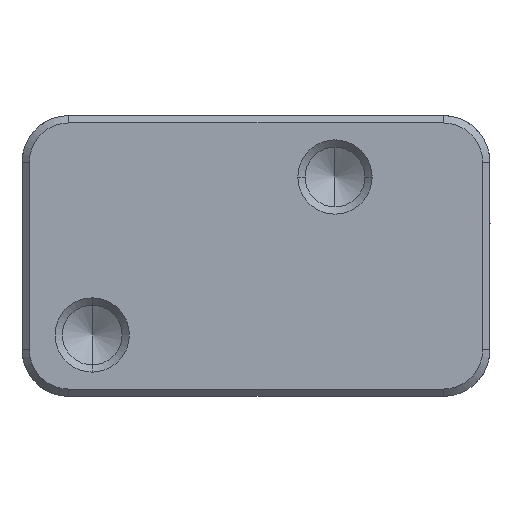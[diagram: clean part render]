
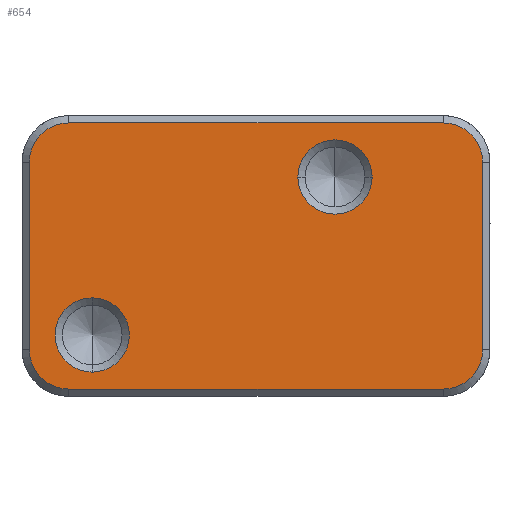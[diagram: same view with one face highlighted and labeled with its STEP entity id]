
A CAD part, front view. The second image highlights one B-rep face of the part: STEP entity #654.
In plain terms, the highlighted planar face has unit normal (0, -1, 0).
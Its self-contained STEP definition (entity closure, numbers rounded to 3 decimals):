
#260 = EDGE_CURVE ( 'NONE', #9826, #9153, #4109, .T. ) ;
#325 = DIRECTION ( 'NONE',  ( 0., -1., 0. ) ) ;
#391 = ORIENTED_EDGE ( 'NONE', *, *, #1894, .T. ) ;
#654 = ADVANCED_FACE ( 'NONE', ( #3525, #7525, #852 ), #11348, .T. ) ;
#692 = LINE ( 'NONE', #4142, #1147 ) ;
#729 = EDGE_LOOP ( 'NONE', ( #8935, #8506 ) ) ;
#852 = FACE_BOUND ( 'NONE', #10500, .T. ) ;
#922 = CARTESIAN_POINT ( 'NONE',  ( -32.001, 0.897, 15.99 ) ) ;
#1072 = CARTESIAN_POINT ( 'NONE',  ( -28.001, 0.897, -19.861 ) ) ;
#1147 = VECTOR ( 'NONE', #14089, 1000. ) ;
#1312 = CARTESIAN_POINT ( 'NONE',  ( -38.75, 0.897, -16.012 ) ) ;
#1326 = CARTESIAN_POINT ( 'NONE',  ( -40., 0.897, -24.012 ) ) ;
#1435 = DIRECTION ( 'NONE',  ( 0., 0., 1. ) ) ;
#1748 = CARTESIAN_POINT ( 'NONE',  ( -28.001, 0.897, -13.511 ) ) ;
#1894 = EDGE_CURVE ( 'NONE', #10480, #11214, #12745, .T. ) ;
#2233 = VECTOR ( 'NONE', #5553, 1000. ) ;
#2249 = EDGE_CURVE ( 'NONE', #10996, #7774, #11618, .T. ) ;
#2462 = ORIENTED_EDGE ( 'NONE', *, *, #3984, .F. ) ;
#2746 = AXIS2_PLACEMENT_3D ( 'NONE', #9037, #325, #3696 ) ;
#3008 = CARTESIAN_POINT ( 'NONE',  ( 38.75, 0.897, -16.012 ) ) ;
#3373 = VERTEX_POINT ( 'NONE', #1312 ) ;
#3424 = LINE ( 'NONE', #8920, #2233 ) ;
#3525 = FACE_BOUND ( 'NONE', #729, .T. ) ;
#3537 = CARTESIAN_POINT ( 'NONE',  ( -32.001, 0.897, 22.74 ) ) ;
#3696 = DIRECTION ( 'NONE',  ( 0., 0., 1. ) ) ;
#3984 = EDGE_CURVE ( 'NONE', #13510, #14486, #8814, .T. ) ;
#4109 = CIRCLE ( 'NONE', #9227, 6.35 ) ;
#4142 = CARTESIAN_POINT ( 'NONE',  ( -40., 0.897, 22.74 ) ) ;
#4145 = AXIS2_PLACEMENT_3D ( 'NONE', #4641, #4433, #5875 ) ;
#4211 = ORIENTED_EDGE ( 'NONE', *, *, #8044, .T. ) ;
#4322 = CARTESIAN_POINT ( 'NONE',  ( -38.75, 0.897, -24.012 ) ) ;
#4433 = DIRECTION ( 'NONE',  ( 0., 1., 0. ) ) ;
#4570 = AXIS2_PLACEMENT_3D ( 'NONE', #1326, #9713, #5325 ) ;
#4641 = CARTESIAN_POINT ( 'NONE',  ( 32.001, 0.897, -16.012 ) ) ;
#4802 = CARTESIAN_POINT ( 'NONE',  ( -28.001, 0.897, -13.511 ) ) ;
#5014 = VERTEX_POINT ( 'NONE', #14009 ) ;
#5281 = EDGE_CURVE ( 'NONE', #7695, #9177, #11615, .T. ) ;
#5325 = DIRECTION ( 'NONE',  ( 1., 0., 0. ) ) ;
#5326 = VECTOR ( 'NONE', #13251, 1000. ) ;
#5390 = EDGE_CURVE ( 'NONE', #11214, #3373, #11931, .T. ) ;
#5553 = DIRECTION ( 'NONE',  ( -1., 0., 0. ) ) ;
#5592 = ORIENTED_EDGE ( 'NONE', *, *, #13806, .T. ) ;
#5875 = DIRECTION ( 'NONE',  ( 0., 0., 1. ) ) ;
#5971 = VECTOR ( 'NONE', #1435, 1000. ) ;
#6099 = CARTESIAN_POINT ( 'NONE',  ( 13.501, 0.897, 13.489 ) ) ;
#6211 = DIRECTION ( 'NONE',  ( 0., 1., 0. ) ) ;
#6251 = DIRECTION ( 'NONE',  ( 1., 0., 0. ) ) ;
#6298 = DIRECTION ( 'NONE',  ( 0., 0., 1. ) ) ;
#6672 = CARTESIAN_POINT ( 'NONE',  ( -28.001, 0.897, -7.161 ) ) ;
#7008 = DIRECTION ( 'NONE',  ( 0., 1., 0. ) ) ;
#7154 = DIRECTION ( 'NONE',  ( 0., 0., -1. ) ) ;
#7261 = DIRECTION ( 'NONE',  ( 1., 0., 0. ) ) ;
#7525 = FACE_OUTER_BOUND ( 'NONE', #13372, .T. ) ;
#7695 = VERTEX_POINT ( 'NONE', #12225 ) ;
#7774 = VERTEX_POINT ( 'NONE', #11770 ) ;
#7851 = AXIS2_PLACEMENT_3D ( 'NONE', #922, #8749, #12852 ) ;
#7875 = AXIS2_PLACEMENT_3D ( 'NONE', #9439, #8490, #6298 ) ;
#7973 = EDGE_CURVE ( 'NONE', #14486, #5014, #3424, .T. ) ;
#8044 = EDGE_CURVE ( 'NONE', #13510, #10996, #9492, .T. ) ;
#8291 = AXIS2_PLACEMENT_3D ( 'NONE', #1748, #6211, #13821 ) ;
#8490 = DIRECTION ( 'NONE',  ( 0., 1., 0. ) ) ;
#8506 = ORIENTED_EDGE ( 'NONE', *, *, #13091, .T. ) ;
#8749 = DIRECTION ( 'NONE',  ( 0., -1., 0. ) ) ;
#8814 = CIRCLE ( 'NONE', #4145, 6.75 ) ;
#8842 = ORIENTED_EDGE ( 'NONE', *, *, #260, .T. ) ;
#8920 = CARTESIAN_POINT ( 'NONE',  ( -40., 0.897, -22.762 ) ) ;
#8935 = ORIENTED_EDGE ( 'NONE', *, *, #5281, .T. ) ;
#8980 = AXIS2_PLACEMENT_3D ( 'NONE', #6099, #10494, #6251 ) ;
#9037 = CARTESIAN_POINT ( 'NONE',  ( 32.001, 0.897, 15.99 ) ) ;
#9153 = VERTEX_POINT ( 'NONE', #1072 ) ;
#9177 = VERTEX_POINT ( 'NONE', #10071 ) ;
#9227 = AXIS2_PLACEMENT_3D ( 'NONE', #4802, #7008, #7154 ) ;
#9401 = CARTESIAN_POINT ( 'NONE',  ( -38.75, 0.897, 15.99 ) ) ;
#9439 = CARTESIAN_POINT ( 'NONE',  ( -32.001, 0.897, -16.012 ) ) ;
#9492 = LINE ( 'NONE', #13959, #5971 ) ;
#9713 = DIRECTION ( 'NONE',  ( 0., -1., 0. ) ) ;
#9826 = VERTEX_POINT ( 'NONE', #6672 ) ;
#10026 = EDGE_CURVE ( 'NONE', #5014, #3373, #14187, .T. ) ;
#10071 = CARTESIAN_POINT ( 'NONE',  ( 7.151, 0.897, 13.489 ) ) ;
#10395 = CARTESIAN_POINT ( 'NONE',  ( 13.501, 0.897, 13.489 ) ) ;
#10480 = VERTEX_POINT ( 'NONE', #3537 ) ;
#10494 = DIRECTION ( 'NONE',  ( 0., 1., 0. ) ) ;
#10500 = EDGE_LOOP ( 'NONE', ( #5592, #8842 ) ) ;
#10737 = ORIENTED_EDGE ( 'NONE', *, *, #7973, .F. ) ;
#10848 = CIRCLE ( 'NONE', #8291, 6.35 ) ;
#10996 = VERTEX_POINT ( 'NONE', #13593 ) ;
#11149 = EDGE_CURVE ( 'NONE', #7774, #10480, #692, .T. ) ;
#11214 = VERTEX_POINT ( 'NONE', #9401 ) ;
#11348 = PLANE ( 'NONE',  #4570 ) ;
#11541 = CIRCLE ( 'NONE', #8980, 6.35 ) ;
#11615 = CIRCLE ( 'NONE', #12323, 6.35 ) ;
#11618 = CIRCLE ( 'NONE', #2746, 6.75 ) ;
#11770 = CARTESIAN_POINT ( 'NONE',  ( 32.001, 0.897, 22.74 ) ) ;
#11931 = LINE ( 'NONE', #4322, #5326 ) ;
#12067 = ORIENTED_EDGE ( 'NONE', *, *, #10026, .F. ) ;
#12225 = CARTESIAN_POINT ( 'NONE',  ( 19.85, 0.897, 13.489 ) ) ;
#12229 = ORIENTED_EDGE ( 'NONE', *, *, #5390, .T. ) ;
#12323 = AXIS2_PLACEMENT_3D ( 'NONE', #10395, #13910, #7261 ) ;
#12745 = CIRCLE ( 'NONE', #7851, 6.75 ) ;
#12852 = DIRECTION ( 'NONE',  ( 0., 0., 1. ) ) ;
#12876 = ORIENTED_EDGE ( 'NONE', *, *, #2249, .T. ) ;
#13091 = EDGE_CURVE ( 'NONE', #9177, #7695, #11541, .T. ) ;
#13251 = DIRECTION ( 'NONE',  ( 0., 0., -1. ) ) ;
#13372 = EDGE_LOOP ( 'NONE', ( #2462, #4211, #12876, #13948, #391, #12229, #12067, #10737 ) ) ;
#13509 = CARTESIAN_POINT ( 'NONE',  ( 32.001, 0.897, -22.762 ) ) ;
#13510 = VERTEX_POINT ( 'NONE', #3008 ) ;
#13593 = CARTESIAN_POINT ( 'NONE',  ( 38.75, 0.897, 15.99 ) ) ;
#13806 = EDGE_CURVE ( 'NONE', #9153, #9826, #10848, .T. ) ;
#13821 = DIRECTION ( 'NONE',  ( 0., 0., -1. ) ) ;
#13910 = DIRECTION ( 'NONE',  ( 0., 1., 0. ) ) ;
#13948 = ORIENTED_EDGE ( 'NONE', *, *, #11149, .T. ) ;
#13959 = CARTESIAN_POINT ( 'NONE',  ( 38.75, 0.897, -24.012 ) ) ;
#14009 = CARTESIAN_POINT ( 'NONE',  ( -32.001, 0.897, -22.762 ) ) ;
#14089 = DIRECTION ( 'NONE',  ( -1., 0., 0. ) ) ;
#14187 = CIRCLE ( 'NONE', #7875, 6.75 ) ;
#14486 = VERTEX_POINT ( 'NONE', #13509 ) ;
